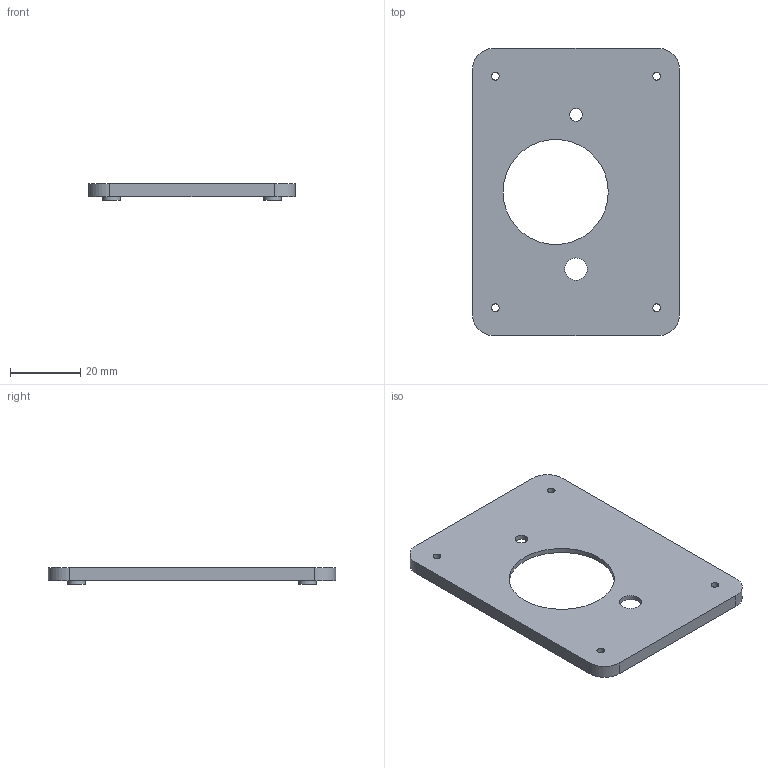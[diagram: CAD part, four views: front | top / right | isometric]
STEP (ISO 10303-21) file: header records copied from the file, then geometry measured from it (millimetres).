
FILE_DESCRIPTION(('FreeCAD Model'),'2;1');
FILE_NAME('Open CASCADE Shape Model','2026-10-19T21:34:23',('FreeCAD'),( 'FreeCAD'),'Open CASCADE STEP processor 7.8','FreeCAD','Unknown');
FILE_SCHEMA(('AUTOMOTIVE_DESIGN { 1 0 10303 214 1 1 1 1 }'));
Length unit declared in the file: millimetre
Products named in the file (1): Open CASCADE STEP translator 7.8 25
Bounding box: 59 x 82 x 4.78 mm (x, y, z)
Volume: 6582 mm3; surface area: 10273.8 mm2
Topology: 1 solids, 1 shells, 34 faces, 81 edges, 54 vertices
Faces by surface type: cylinder 19, plane 15
Full cylindrical faces by diameter (mm): 2.2 x4, 3.6 x1, 5 x4, 6.4 x1, 30 x1
Entity records: 1041 total; most frequent: DIRECTION 189, CARTESIAN_POINT 170, ORIENTED_EDGE 162, EDGE_CURVE 81, AXIS2_PLACEMENT_3D 73, VERTEX_POINT 54, FACE_BOUND 53, EDGE_LOOP 53
